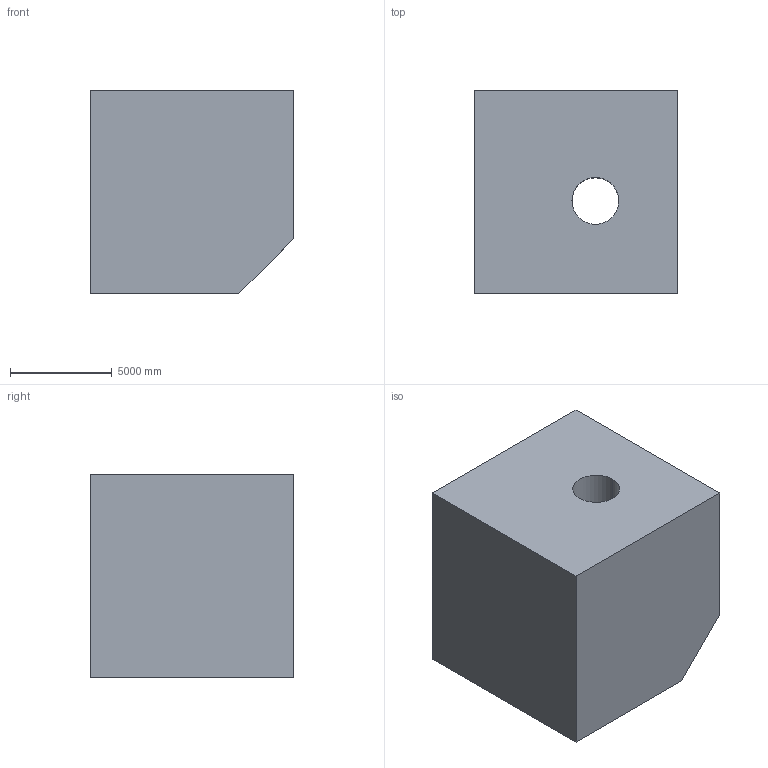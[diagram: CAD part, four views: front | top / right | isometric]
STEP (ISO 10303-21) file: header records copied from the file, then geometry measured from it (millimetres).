
FILE_DESCRIPTION (( 'STEP AP203' ), '1' );
FILE_NAME ('256.STEP', '2022-07-28T14:07:14', ( 'user' ), ( '' ), 'SwSTEP 2.0', 'SolidWorks 2021', '' );
FILE_SCHEMA (( 'CONFIG_CONTROL_DESIGN' ));
Length unit declared in the file: centimetre
Products named in the file (1): 256
Bounding box: 10000 x 10000 x 10000 mm (x, y, z)
Volume: 894132504167.9 mm3; surface area: 648041165.3 mm2
Topology: 1 solids, 1 shells, 12 faces, 30 edges, 20 vertices
Faces by surface type: plane 10, cylinder 2
Entity records: 439 total; most frequent: CARTESIAN_POINT 63, ORIENTED_EDGE 60, DIRECTION 60, EDGE_CURVE 30, VECTOR 26, LINE 26, VERTEX_POINT 20, AXIS2_PLACEMENT_3D 17
